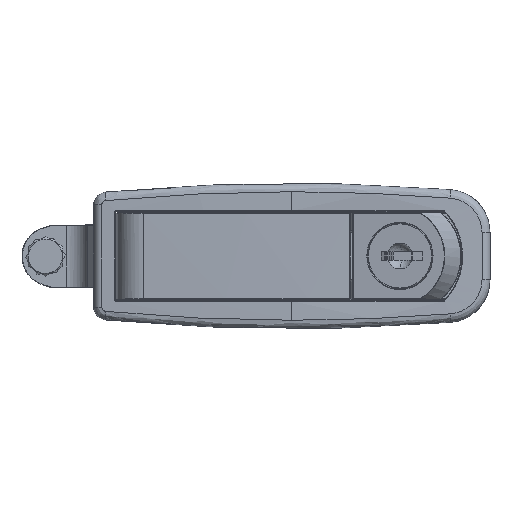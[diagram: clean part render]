
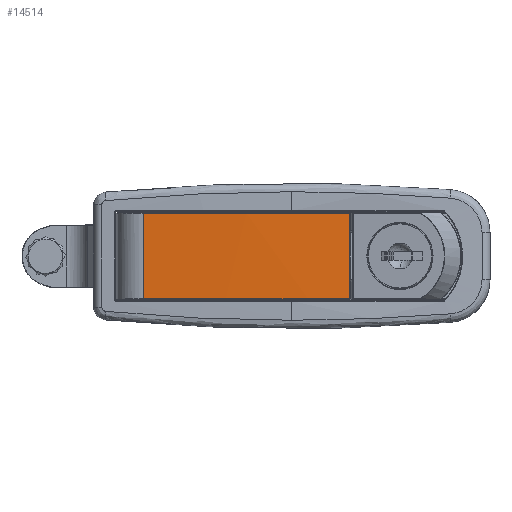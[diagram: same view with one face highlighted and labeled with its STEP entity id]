
A CAD part, top view. The second image highlights one B-rep face of the part: STEP entity #14514.
In plain terms, the highlighted cylindrical face has radius 630 mm (diameter 1260 mm), a partial arc.
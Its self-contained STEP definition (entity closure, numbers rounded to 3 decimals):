
#1091 = ORIENTED_EDGE ( 'NONE', *, *, #51109, .T. ) ;
#3446 = CARTESIAN_POINT ( 'NONE',  ( -48.252, 3.8, 10.15 ) ) ;
#6614 = CARTESIAN_POINT ( 'NONE',  ( -3.339, 4.951, 10.008 ) ) ;
#6815 = FACE_OUTER_BOUND ( 'NONE', #40962, .T. ) ;
#7808 = CARTESIAN_POINT ( 'NONE',  ( -0.12, 4.902, 10.15 ) ) ;
#8405 = CARTESIAN_POINT ( 'NONE',  ( -0.12, 4.902, -10.008 ) ) ;
#11731 =( BOUNDED_CURVE ( )  B_SPLINE_CURVE ( 3, ( #23675, #24227, #6614, #15403 ),
 .UNSPECIFIED., .F., .F. ) 
 B_SPLINE_CURVE_WITH_KNOTS ( ( 4, 4 ),
 ( 0., 0.015 ),
 .UNSPECIFIED. ) 
 CURVE ( )  GEOMETRIC_REPRESENTATION_ITEM ( )  RATIONAL_B_SPLINE_CURVE ( ( 1., 1., 1., 1. ) ) 
 REPRESENTATION_ITEM ( '' )  );
#11866 = CARTESIAN_POINT ( 'NONE',  ( -9.778, 4.976, 10.007 ) ) ;
#14213 = EDGE_CURVE ( 'NONE', #25087, #54095, #51849, .T. ) ;
#14514 = ADVANCED_FACE ( 'NONE', ( #6815 ), #49264, .T. ) ;
#15104 = CARTESIAN_POINT ( 'NONE',  ( -48.252, 3.8, -10.018 ) ) ;
#15403 = CARTESIAN_POINT ( 'NONE',  ( -0.12, 4.902, 10.008 ) ) ;
#16028 = EDGE_CURVE ( 'NONE', #25087, #37548, #51089, .T. ) ;
#19353 = CARTESIAN_POINT ( 'NONE',  ( -0.12, 4.902, 10.008 ) ) ;
#21508 = CARTESIAN_POINT ( 'NONE',  ( -16.174, 5.148, -10.006 ) ) ;
#23675 = CARTESIAN_POINT ( 'NONE',  ( -9.778, 4.976, 10.007 ) ) ;
#24227 = CARTESIAN_POINT ( 'NONE',  ( -6.559, 4.976, 10.007 ) ) ;
#25087 = VERTEX_POINT ( 'NONE', #30115 ) ;
#26251 =( BOUNDED_CURVE ( )  B_SPLINE_CURVE ( 3, ( #43435, #21508, #51405, #47689 ),
 .UNSPECIFIED., .F., .F. ) 
 B_SPLINE_CURVE_WITH_KNOTS ( ( 4, 4 ),
 ( 3.126, 3.203 ),
 .UNSPECIFIED. ) 
 CURVE ( )  GEOMETRIC_REPRESENTATION_ITEM ( )  RATIONAL_B_SPLINE_CURVE ( ( 1., 1., 1., 1. ) ) 
 REPRESENTATION_ITEM ( '' )  );
#28202 = AXIS2_PLACEMENT_3D ( 'NONE', #40426, #49782, #54621 ) ;
#28674 = CARTESIAN_POINT ( 'NONE',  ( -9.778, 4.976, 10.007 ) ) ;
#30115 = CARTESIAN_POINT ( 'NONE',  ( -48.252, 3.8, 10.018 ) ) ;
#30889 = VERTEX_POINT ( 'NONE', #8405 ) ;
#32632 = EDGE_CURVE ( 'NONE', #30889, #54095, #26251, .T. ) ;
#33491 = CARTESIAN_POINT ( 'NONE',  ( -48.252, 3.8, 10.018 ) ) ;
#33597 = ORIENTED_EDGE ( 'NONE', *, *, #14213, .F. ) ;
#33917 = DIRECTION ( 'NONE',  ( 0., 0., -1. ) ) ;
#37135 = DIRECTION ( 'NONE',  ( 0., 0., -1. ) ) ;
#37548 = VERTEX_POINT ( 'NONE', #28674 ) ;
#38613 = CARTESIAN_POINT ( 'NONE',  ( -35.442, 4.584, 10.011 ) ) ;
#38917 = ORIENTED_EDGE ( 'NONE', *, *, #48447, .T. ) ;
#40426 = CARTESIAN_POINT ( 'NONE',  ( -9.778, -625.024, 10.15 ) ) ;
#40962 = EDGE_LOOP ( 'NONE', ( #33597, #43523, #38917, #1091, #53433 ) ) ;
#42330 = CARTESIAN_POINT ( 'NONE',  ( -22.613, 4.976, 10.007 ) ) ;
#43435 = CARTESIAN_POINT ( 'NONE',  ( -0.12, 4.902, -10.008 ) ) ;
#43523 = ORIENTED_EDGE ( 'NONE', *, *, #16028, .T. ) ;
#44837 = VECTOR ( 'NONE', #37135, 1000. ) ;
#46819 = LINE ( 'NONE', #7808, #44837 ) ;
#47689 = CARTESIAN_POINT ( 'NONE',  ( -48.252, 3.8, -10.018 ) ) ;
#48447 = EDGE_CURVE ( 'NONE', #37548, #55609, #11731, .T. ) ;
#49264 = CYLINDRICAL_SURFACE ( 'NONE', #28202, 630. ) ;
#49591 = VECTOR ( 'NONE', #33917, 1000. ) ;
#49782 = DIRECTION ( 'NONE',  ( 0., 0., -1. ) ) ;
#51089 =( BOUNDED_CURVE ( )  B_SPLINE_CURVE ( 3, ( #33491, #38613, #42330, #11866 ),
 .UNSPECIFIED., .F., .F. ) 
 B_SPLINE_CURVE_WITH_KNOTS ( ( 4, 4 ),
 ( 6.222, 6.283 ),
 .UNSPECIFIED. ) 
 CURVE ( )  GEOMETRIC_REPRESENTATION_ITEM ( )  RATIONAL_B_SPLINE_CURVE ( ( 1., 1., 1., 1. ) ) 
 REPRESENTATION_ITEM ( '' )  );
#51109 = EDGE_CURVE ( 'NONE', #55609, #30889, #46819, .T. ) ;
#51405 = CARTESIAN_POINT ( 'NONE',  ( -32.226, 4.781, -10.009 ) ) ;
#51849 = LINE ( 'NONE', #3446, #49591 ) ;
#53433 = ORIENTED_EDGE ( 'NONE', *, *, #32632, .T. ) ;
#54095 = VERTEX_POINT ( 'NONE', #15104 ) ;
#54621 = DIRECTION ( 'NONE',  ( -1., 0., 0. ) ) ;
#55609 = VERTEX_POINT ( 'NONE', #19353 ) ;
